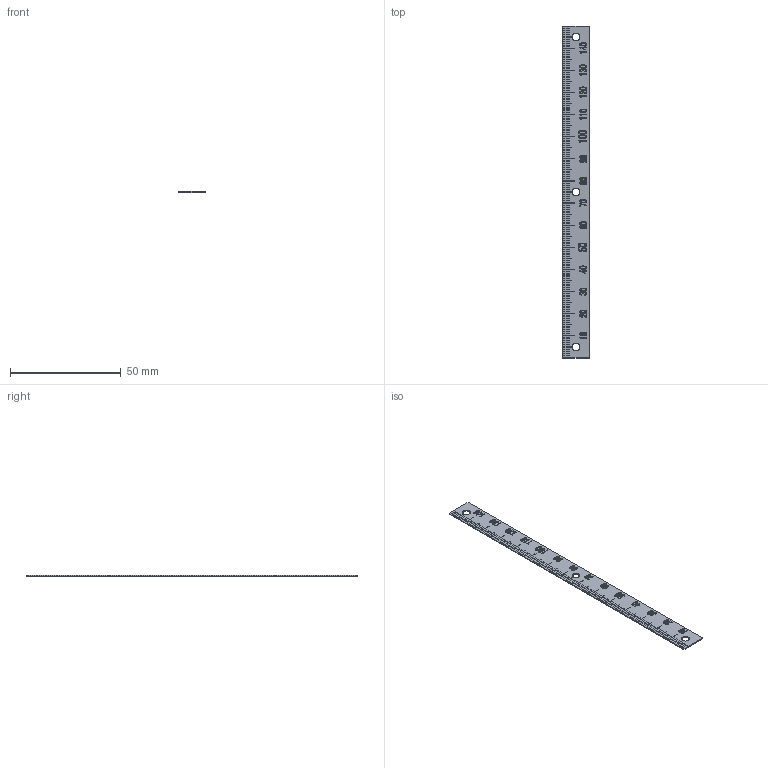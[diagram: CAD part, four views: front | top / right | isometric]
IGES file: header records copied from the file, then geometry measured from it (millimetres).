
Start section: SolidWorks IGES file using analytic representation for surfaces
Global section: file name: Y:\5.更新分\2023年対応\04xx_ALL\E\ES2N-U150R\es2n-u150r.IGS; native system: SolidWorks 2021; preprocessor: SolidWorks 2021; author: ImaoCorp; date: 230615.155513; units: millimetre
Bounding box: 12 x 150 x 0.5 mm (x, y, z)
Surface area: 3734.9 mm2 (no closed solid volume)
Topology: 0 solids, 0 shells, 1179 faces, 12290 edges, 12290 vertices
Faces by surface type: bspline 1173, revolution 6
